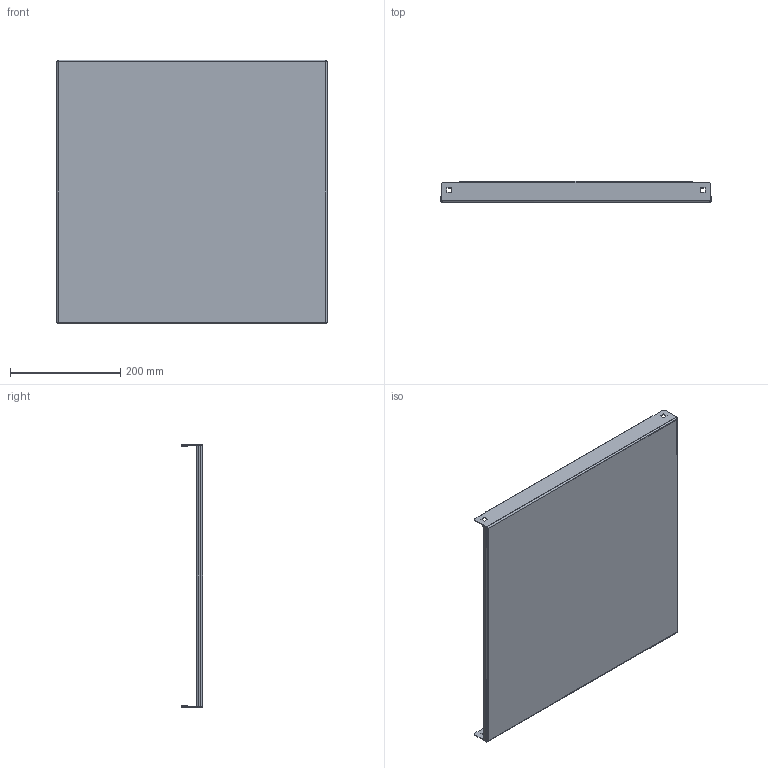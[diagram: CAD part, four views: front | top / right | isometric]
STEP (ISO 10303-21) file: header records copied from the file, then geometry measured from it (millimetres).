
FILE_DESCRIPTION((''),'2;1');
FILE_NAME('BSH-5A','2013-08-09T',('bmann'),('Middle Atlantic Products'),'PRO/ENGINEER BY PARAMETRIC TECHNOLOGY CORPORATION, 2012420','PRO/ENGINEER BY PARAMETRIC TECHNOLOGY CORPORATION, 2012420','');
FILE_SCHEMA(('CONFIG_CONTROL_DESIGN'));
Length unit declared in the file: inch
Products named in the file (1): BSH-5A
Bounding box: 490.73 x 38.1 x 477.82 mm (x, y, z)
Volume: 446077.4 mm3; surface area: 588998.2 mm2
Topology: 1 solids, 1 shells, 110 faces, 260 edges, 152 vertices
Faces by surface type: plane 82, cylinder 20, bspline 8
Entity records: 3356 total; most frequent: CARTESIAN_POINT 834, ORIENTED_EDGE 520, DIRECTION 480, EDGE_CURVE 260, VECTOR 212, LINE 212, VERTEX_POINT 152, AXIS2_PLACEMENT_3D 134
